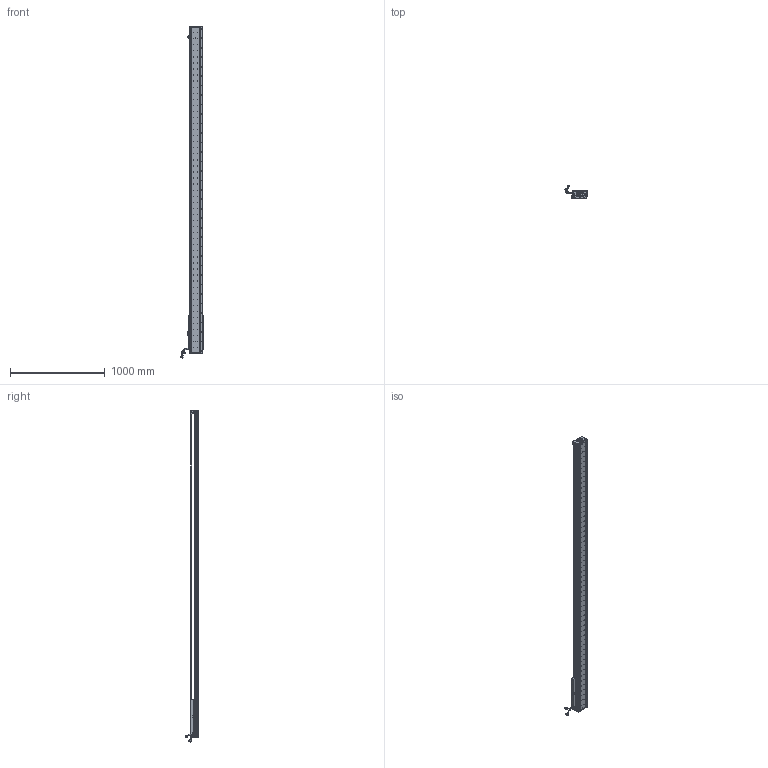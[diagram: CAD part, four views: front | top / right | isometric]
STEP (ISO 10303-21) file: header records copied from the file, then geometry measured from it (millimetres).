
FILE_DESCRIPTION (( 'STEP AP203' ), '1' );
FILE_NAME ('Z5-RY140D-1-L500-B-K.SLDASM_3000.step', '2021-05-17T08:42:50', ( '盈信电脑' ), ( '东莞市道滘镇水果街19号' ), 'SwSTEP 2.0', 'SolidWorks 2016', '' );
FILE_SCHEMA (( 'CONFIG_CONTROL_DESIGN' ));
Length unit declared in the file: millimetre
Products named in the file (36): 詩湍狟揤裔; Z5-RY140-L500直线电机模组底座_3000; PSLH080_PSLF2; HARNESS; SCREW-M1.6-3; 詩湍奻揤裔; HARNESS-Part-1; Z5-RY140D-1-L500-B-K.SLDASM_3000; PBU_SHEET; 140-Z-臏賑輸盄裔(21遴); SCREW-M1.6-2; SCREW-M1.6; SCALE-Part-1; 080黍杅芛假蚾釱21遴; LABEL-Part-1; LABEL; HARNESS-Part-2; SCALE-Part-2; SCREW-M1.7-1; 140蚥薯蝶輸; COVER; SCREW-M1.6-1; SHIELDPLATE; Z-140詩湍傷裔啣; 140雄赽晤鎢ん堤盄; Z-RY140感应器672光电感应片; HOLDER0; SCREW-M1.7; Z5-RY140圉猾敕臏賑輸(21遴); SEAL; 覜茼ん672; COVER-Part-1; SEAL-Part-1; Z5-RY140-L500詩湍100mm遵_3000; 榋妏寠巭燃_暯_M2_2; SCALE
Assembly tree (41 placements, depth 4):
  Z5-RY140D-1-L500-B-K.SLDASM_3000
    Z5-RY140-L500直线电机模组底座_3000
    Z-RY140感应器672光电感应片
    Z5-RY140圉猾敕臏賑輸(21遴)
    覜茼ん672  x3
    Z5-RY140-L500詩湍100mm遵_3000
    PSLH080_PSLF2
      SCALE
        SCALE-Part-1
        SCALE-Part-2
      HARNESS
        HARNESS-Part-1
        HARNESS-Part-2
      LABEL
        LABEL-Part-1
      COVER
        COVER-Part-1
      SEAL
        SEAL-Part-1
      榋妏寠巭燃_暯_M2_2
      SHIELDPLATE
      SCREW-M1.7
      SCREW-M1.7-1
      PBU_SHEET
      SCREW-M1.6
      SCREW-M1.6-1
      SCREW-M1.6-2
      SCREW-M1.6-3
      HOLDER0
    080黍杅芛假蚾釱21遴
    140-Z-臏賑輸盄裔(21遴)
    Z-140詩湍傷裔啣  x2
    詩湍狟揤裔  x2
    詩湍奻揤裔  x2
    140蚥薯蝶輸  x2
    140雄赽晤鎢ん堤盄
Bounding box: 239.79 x 143.88 x 3505.87 mm (x, y, z)
Volume: 11310224.9 mm3; surface area: 2915109.9 mm2
Topology: 36 solids, 36 shells, 4830 faces, 13274 edges, 8415 vertices
Faces by surface type: cylinder 2740, plane 1506, cone 462, torus 69, bspline 53
Entity records: 157354 total; most frequent: CARTESIAN_POINT 45763, ORIENTED_EDGE 23348, DIRECTION 21226, EDGE_CURVE 11674, AXIS2_PLACEMENT_3D 7942, VERTEX_POINT 7583, VECTOR 5342, LINE 5342
